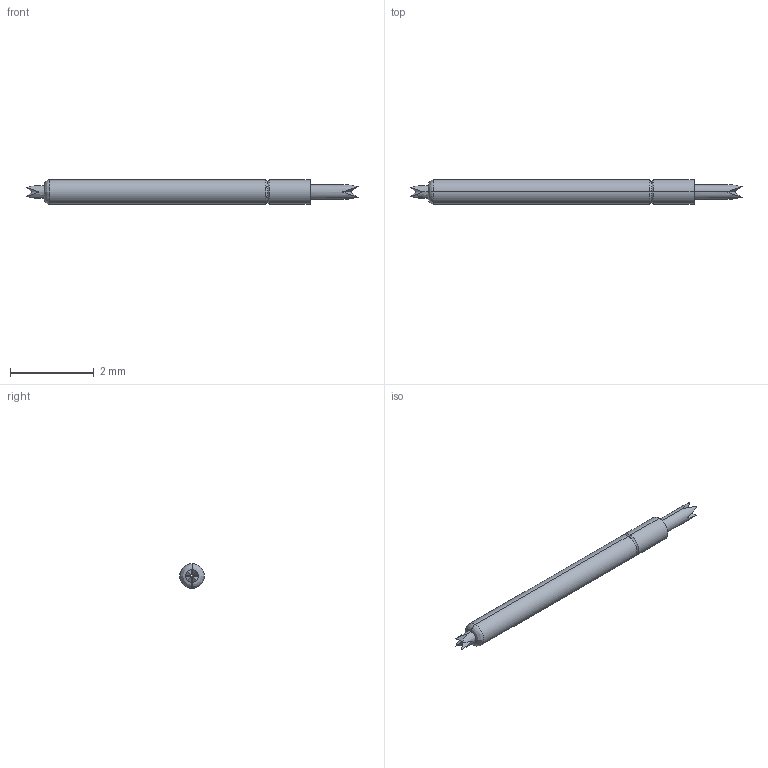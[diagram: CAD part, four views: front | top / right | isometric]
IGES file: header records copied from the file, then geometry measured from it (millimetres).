
Start section: SolidWorks IGES file using analytic representation for surfaces
Global section: file name: Z:\probe solid model mockups\Solidworks models\IGES Files\CSP8-25 IGES files\CSP8-25LL RECD.IGS; native system: SolidWorks 2006 by SolidWorks Corporation; preprocessor: SolidWorks 2006 by SolidWorks Corporation; author: tsakatani; date: 080108.153842; units: inch
Bounding box: 7.92 x 0.58 x 0.58 mm (x, y, z)
Surface area: 13.8 mm2 (no closed solid volume)
Topology: 0 solids, 0 shells, 31 faces, 180 edges, 180 vertices
Faces by surface type: bspline 23, revolution 8
